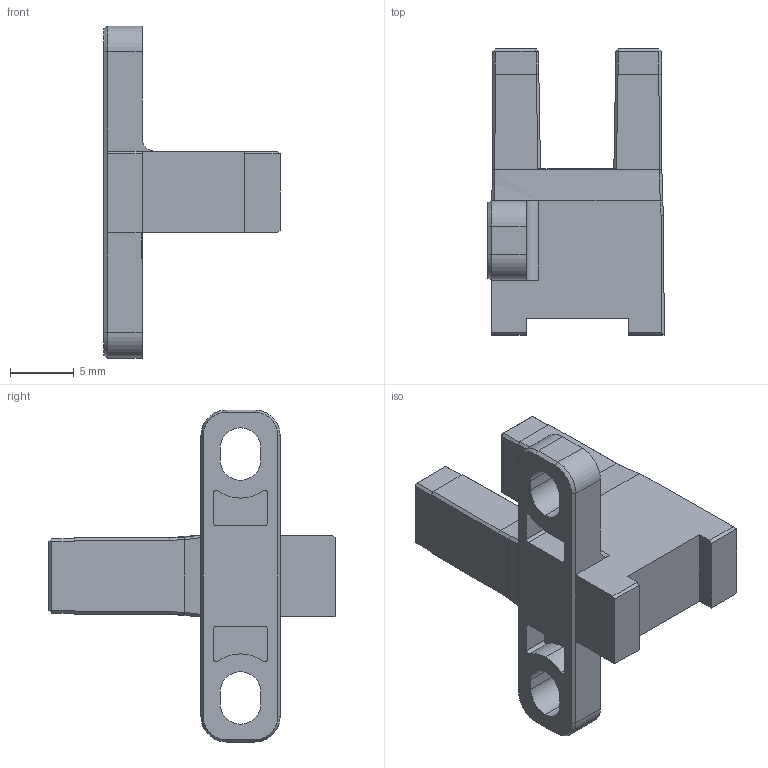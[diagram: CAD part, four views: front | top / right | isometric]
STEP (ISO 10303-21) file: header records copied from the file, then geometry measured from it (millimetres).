
FILE_DESCRIPTION (( 'STEP AP203' ), '1' );
FILE_NAME ('PU-T68.STEP', '2023-03-29T09:28:21', ( 'Windows User' ), ( 'P R C' ), 'SwSTEP 2.0', 'SolidWorks 2018', '' );
FILE_SCHEMA (( 'CONFIG_CONTROL_DESIGN' ));
Length unit declared in the file: millimetre
Products named in the file (1): PU-T68
Bounding box: 13.82 x 22.4 x 26 mm (x, y, z)
Volume: 1704.5 mm3; surface area: 1485.6 mm2
Topology: 1 solids, 3 shells, 185 faces, 487 edges, 312 vertices
Faces by surface type: plane 138, cylinder 33, bspline 8, cone 6
Entity records: 5791 total; most frequent: CARTESIAN_POINT 1196, ORIENTED_EDGE 974, DIRECTION 867, EDGE_CURVE 487, LINE 391, VECTOR 391, VERTEX_POINT 312, AXIS2_PLACEMENT_3D 238
